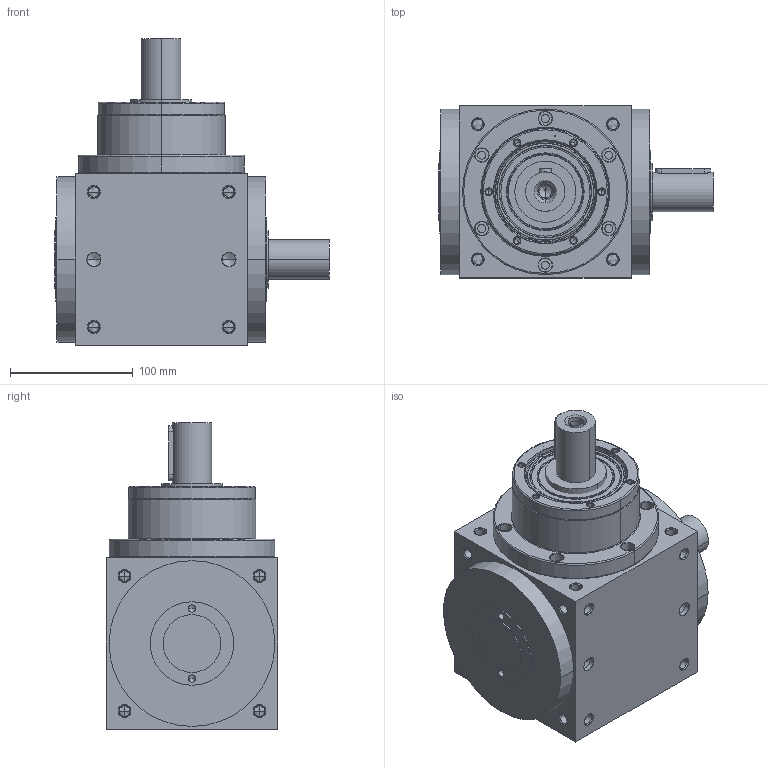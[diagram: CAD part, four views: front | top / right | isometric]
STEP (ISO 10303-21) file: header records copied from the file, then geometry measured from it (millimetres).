
FILE_DESCRIPTION((''),'2;1');
FILE_NAME('ATB140R1-1_ASM','2014-07-17T',('D00080'),(''),'PRO/ENGINEER BY PARAMETRIC TECHNOLOGY CORPORATION, 2008170','PRO/ENGINEER BY PARAMETRIC TECHNOLOGY CORPORATION, 2008170','');
FILE_SCHEMA(('CONFIG_CONTROL_DESIGN'));
Length unit declared in the file: millimetre
Products named in the file (4): ATBR1-HOUSING-1-6; P1820600001; 22400071006; ATB140R1-1_ASM
Assembly tree (3 placements, depth 2):
  ATB140R1-1_ASM
    ATBR1-HOUSING-1-6
    P1820600001
    22400071006
Bounding box: 224 x 140 x 250 mm (x, y, z)
Volume: 3623794.8 mm3; surface area: 262588.6 mm2
Topology: 4 solids, 36 shells, 592 faces, 1464 edges, 867 vertices
Faces by surface type: cylinder 274, cone 206, plane 76, torus 36
Entity records: 17695 total; most frequent: CARTESIAN_POINT 3721, DIRECTION 3136, ORIENTED_EDGE 2644, EDGE_CURVE 1386, AXIS2_PLACEMENT_3D 1315, VERTEX_POINT 867, CIRCLE 712, EDGE_LOOP 705
